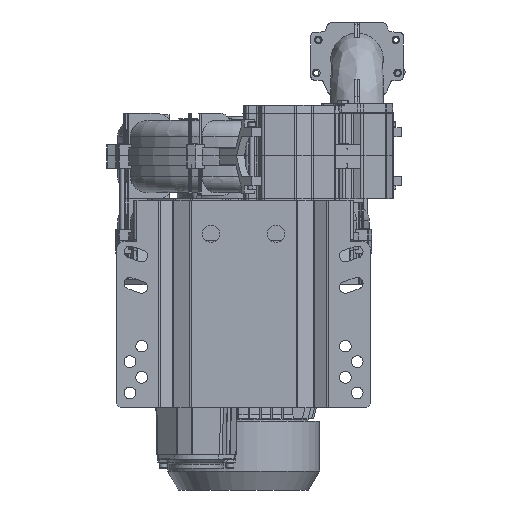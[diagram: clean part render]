
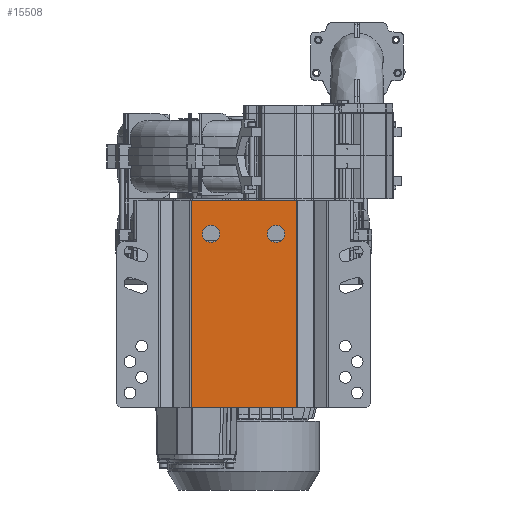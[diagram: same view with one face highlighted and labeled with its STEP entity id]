
A CAD part, front view. The second image highlights one B-rep face of the part: STEP entity #15508.
In plain terms, the highlighted planar face has unit normal (0, -1, 0).
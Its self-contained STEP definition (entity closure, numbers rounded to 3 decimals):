
#1704 = CARTESIAN_POINT ( 'NONE',  ( -67.005, -199., -70.6 ) ) ;
#3732 = VERTEX_POINT ( 'NONE', #127112 ) ;
#8322 = LINE ( 'NONE', #55052, #93170 ) ;
#11032 = CIRCLE ( 'NONE', #121279, 11. ) ;
#15506 = EDGE_CURVE ( 'NONE', #41459, #103384, #8322, .T. ) ;
#15508 = ADVANCED_FACE ( 'NONE', ( #40515, #31313, #52788 ), #54312, .T. ) ;
#19100 = EDGE_CURVE ( 'NONE', #147659, #147659, #71638, .T. ) ;
#21336 = ORIENTED_EDGE ( 'NONE', *, *, #121291, .F. ) ;
#22497 = EDGE_CURVE ( 'NONE', #141969, #141969, #11032, .T. ) ;
#22945 = DIRECTION ( 'NONE',  ( -1., 0., 0. ) ) ;
#26883 = LINE ( 'NONE', #97414, #62438 ) ;
#31313 = FACE_OUTER_BOUND ( 'NONE', #103761, .T. ) ;
#33051 = DIRECTION ( 'NONE',  ( 0., 0., -1. ) ) ;
#33525 = CARTESIAN_POINT ( 'NONE',  ( 41.5, -199., 151.4 ) ) ;
#33685 = EDGE_CURVE ( 'NONE', #103384, #126317, #26883, .T. ) ;
#36051 = EDGE_LOOP ( 'NONE', ( #87759 ) ) ;
#36079 = CARTESIAN_POINT ( 'NONE',  ( -41.5, -199., 162.4 ) ) ;
#39120 = DIRECTION ( 'NONE',  ( 0., 0., -1. ) ) ;
#40515 = FACE_BOUND ( 'NONE', #36051, .T. ) ;
#41459 = VERTEX_POINT ( 'NONE', #80601 ) ;
#52788 = FACE_BOUND ( 'NONE', #99360, .T. ) ;
#54312 = PLANE ( 'NONE',  #125135 ) ;
#55052 = CARTESIAN_POINT ( 'NONE',  ( 67.005, -199., 194.4 ) ) ;
#62438 = VECTOR ( 'NONE', #39120, 1000. ) ;
#65048 = DIRECTION ( 'NONE',  ( 0., -1., 0. ) ) ;
#71638 = CIRCLE ( 'NONE', #101071, 11. ) ;
#73438 = CARTESIAN_POINT ( 'NONE',  ( -67.005, -199., 194.4 ) ) ;
#80296 = DIRECTION ( 'NONE',  ( 0., 1., 0. ) ) ;
#80601 = CARTESIAN_POINT ( 'NONE',  ( 67.005, -199., 194.4 ) ) ;
#80917 = ORIENTED_EDGE ( 'NONE', *, *, #122654, .F. ) ;
#87323 = DIRECTION ( 'NONE',  ( 0., 0., 1. ) ) ;
#87759 = ORIENTED_EDGE ( 'NONE', *, *, #19100, .T. ) ;
#88865 = CARTESIAN_POINT ( 'NONE',  ( 67.005, -199., 194.4 ) ) ;
#93170 = VECTOR ( 'NONE', #125620, 1000. ) ;
#94680 = ORIENTED_EDGE ( 'NONE', *, *, #33685, .T. ) ;
#97414 = CARTESIAN_POINT ( 'NONE',  ( -67.005, -199., 194.4 ) ) ;
#99360 = EDGE_LOOP ( 'NONE', ( #140902 ) ) ;
#101071 = AXIS2_PLACEMENT_3D ( 'NONE', #33525, #80296, #127115 ) ;
#102617 = DIRECTION ( 'NONE',  ( 0., -1., 0. ) ) ;
#103384 = VERTEX_POINT ( 'NONE', #73438 ) ;
#103391 = VECTOR ( 'NONE', #22945, 1000. ) ;
#103639 = LINE ( 'NONE', #112124, #122660 ) ;
#103761 = EDGE_LOOP ( 'NONE', ( #80917, #21336, #132250, #94680 ) ) ;
#112124 = CARTESIAN_POINT ( 'NONE',  ( 67.005, -199., 194.4 ) ) ;
#112334 = CARTESIAN_POINT ( 'NONE',  ( 41.5, -199., 162.4 ) ) ;
#121279 = AXIS2_PLACEMENT_3D ( 'NONE', #122589, #65048, #148648 ) ;
#121291 = EDGE_CURVE ( 'NONE', #41459, #3732, #103639, .T. ) ;
#122589 = CARTESIAN_POINT ( 'NONE',  ( -41.5, -199., 151.4 ) ) ;
#122654 = EDGE_CURVE ( 'NONE', #3732, #126317, #130265, .T. ) ;
#122660 = VECTOR ( 'NONE', #33051, 1000. ) ;
#125135 = AXIS2_PLACEMENT_3D ( 'NONE', #88865, #102617, #87323 ) ;
#125620 = DIRECTION ( 'NONE',  ( -1., 0., 0. ) ) ;
#126317 = VERTEX_POINT ( 'NONE', #1704 ) ;
#127112 = CARTESIAN_POINT ( 'NONE',  ( 67.005, -199., -70.6 ) ) ;
#127115 = DIRECTION ( 'NONE',  ( 0., 0., 1. ) ) ;
#127995 = CARTESIAN_POINT ( 'NONE',  ( 67.005, -199., -70.6 ) ) ;
#130265 = LINE ( 'NONE', #127995, #103391 ) ;
#132250 = ORIENTED_EDGE ( 'NONE', *, *, #15506, .T. ) ;
#140902 = ORIENTED_EDGE ( 'NONE', *, *, #22497, .F. ) ;
#141969 = VERTEX_POINT ( 'NONE', #36079 ) ;
#147659 = VERTEX_POINT ( 'NONE', #112334 ) ;
#148648 = DIRECTION ( 'NONE',  ( 0., 0., 1. ) ) ;
